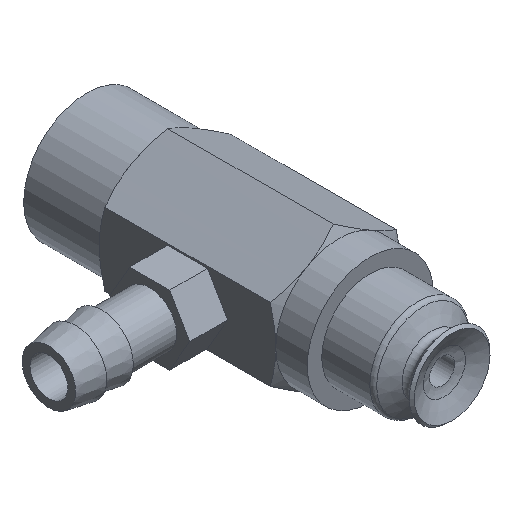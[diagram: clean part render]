
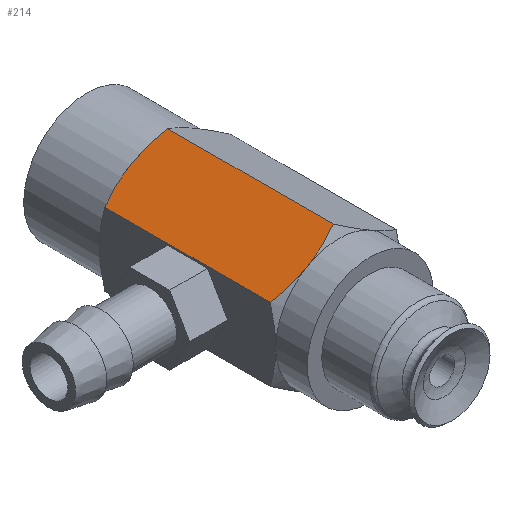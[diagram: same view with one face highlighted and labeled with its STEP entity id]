
A CAD part, isometric view. The second image highlights one B-rep face of the part: STEP entity #214.
In plain terms, the highlighted planar face has unit normal (-0.5, 0, 0.866).
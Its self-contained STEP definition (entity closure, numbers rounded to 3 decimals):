
#214=ADVANCED_FACE('',(#291),#292,.F.);
#291=FACE_OUTER_BOUND('',#479,.T.);
#292=PLANE('',#480);
#479=EDGE_LOOP('',(#720,#721,#722,#723,#724,#725));
#480=AXIS2_PLACEMENT_3D('',#726,#727,#728);
#720=ORIENTED_EDGE('',*,*,#1132,.T.);
#721=ORIENTED_EDGE('',*,*,#1136,.F.);
#722=ORIENTED_EDGE('',*,*,#1138,.F.);
#723=ORIENTED_EDGE('',*,*,#1139,.F.);
#724=ORIENTED_EDGE('',*,*,#1140,.F.);
#725=ORIENTED_EDGE('',*,*,#1124,.F.);
#726=CARTESIAN_POINT('',(-5.0,20.0,2.887));
#727=DIRECTION('',(0.5,0.0,-0.866));
#728=DIRECTION('',(0.0,-1.0,0.0));
#1124=EDGE_CURVE('',#1235,#1232,#1237,.T.);
#1132=EDGE_CURVE('',#1235,#1250,#1253,.T.);
#1136=EDGE_CURVE('',#1259,#1250,#1260,.T.);
#1138=EDGE_CURVE('',#1262,#1259,#1263,.T.);
#1139=EDGE_CURVE('',#1264,#1262,#1265,.T.);
#1140=EDGE_CURVE('',#1232,#1264,#1266,.T.);
#1232=VERTEX_POINT('',#1423);
#1235=VERTEX_POINT('',#1426);
#1237=B_SPLINE_CURVE_WITH_KNOTS('',3,(#1437,#1438,#1439,#1440,#1441,#1442,#1443,#1444,#1445,#1446),.UNSPECIFIED.,.F.,.F.,(4,1,1,1,1,1,1,4),(0.0,0.129,0.255,0.379,0.5,0.669,0.835,1.0),.UNSPECIFIED.);
#1250=VERTEX_POINT('',#1465);
#1253=LINE('',#1477,#1478);
#1259=VERTEX_POINT('',#1503);
#1260=B_SPLINE_CURVE_WITH_KNOTS('',3,(#1504,#1505,#1506,#1507,#1508,#1509,#1510,#1511,#1512,#1513),.UNSPECIFIED.,.F.,.F.,(4,1,1,1,1,1,1,4),(0.0,0.099,0.198,0.297,0.398,0.5,0.745,1.0),.UNSPECIFIED.);
#1262=VERTEX_POINT('',#1515);
#1263=B_SPLINE_CURVE_WITH_KNOTS('',3,(#1516,#1517,#1518,#1519,#1520,#1521,#1522,#1523,#1524,#1525),.UNSPECIFIED.,.F.,.F.,(4,1,1,1,1,1,1,4),(0.0,0.129,0.255,0.379,0.5,0.669,0.835,1.0),.UNSPECIFIED.);
#1264=VERTEX_POINT('',#1526);
#1265=LINE('',#1527,#1528);
#1266=B_SPLINE_CURVE_WITH_KNOTS('',3,(#1529,#1530,#1531,#1532,#1533,#1534,#1535,#1536,#1537,#1538),.UNSPECIFIED.,.F.,.F.,(4,1,1,1,1,1,1,4),(0.0,0.099,0.198,0.297,0.398,0.5,0.745,1.0),.UNSPECIFIED.);
#1423=CARTESIAN_POINT('',(-2.5,16.5,4.33));
#1426=CARTESIAN_POINT('',(-5.0,16.053,2.887));
#1437=CARTESIAN_POINT('',(-5.,16.053,2.887));
#1438=CARTESIAN_POINT('',(-4.895,16.088,2.947));
#1439=CARTESIAN_POINT('',(-4.687,16.155,3.067));
#1440=CARTESIAN_POINT('',(-4.376,16.243,3.247));
#1441=CARTESIAN_POINT('',(-4.069,16.318,3.425));
#1442=CARTESIAN_POINT('',(-3.724,16.39,3.624));
#1443=CARTESIAN_POINT('',(-3.341,16.45,3.844));
#1444=CARTESIAN_POINT('',(-2.92,16.492,4.088));
#1445=CARTESIAN_POINT('',(-2.64,16.497,4.249));
#1446=CARTESIAN_POINT('',(-2.5,16.5,4.33));
#1465=CARTESIAN_POINT('',(-5.0,2.947,2.887));
#1477=CARTESIAN_POINT('',(-5.0,20.0,2.887));
#1478=VECTOR('',#1920,1.0);
#1503=CARTESIAN_POINT('',(-2.5,2.5,4.33));
#1504=CARTESIAN_POINT('',(-2.5,2.5,4.33));
#1505=CARTESIAN_POINT('',(-2.584,2.501,4.282));
#1506=CARTESIAN_POINT('',(-2.752,2.503,4.185));
#1507=CARTESIAN_POINT('',(-3.003,2.518,4.04));
#1508=CARTESIAN_POINT('',(-3.254,2.542,3.894));
#1509=CARTESIAN_POINT('',(-3.508,2.576,3.749));
#1510=CARTESIAN_POINT('',(-3.883,2.64,3.532));
#1511=CARTESIAN_POINT('',(-4.383,2.752,3.243));
#1512=CARTESIAN_POINT('',(-4.792,2.881,3.007));
#1513=CARTESIAN_POINT('',(-5.,2.947,2.887));
#1515=CARTESIAN_POINT('',(0.0,2.947,5.774));
#1516=CARTESIAN_POINT('',(0.,2.947,5.774));
#1517=CARTESIAN_POINT('',(-0.105,2.912,5.713));
#1518=CARTESIAN_POINT('',(-0.313,2.845,5.593));
#1519=CARTESIAN_POINT('',(-0.624,2.757,5.413));
#1520=CARTESIAN_POINT('',(-0.931,2.682,5.236));
#1521=CARTESIAN_POINT('',(-1.276,2.61,5.037));
#1522=CARTESIAN_POINT('',(-1.659,2.55,4.816));
#1523=CARTESIAN_POINT('',(-2.08,2.508,4.572));
#1524=CARTESIAN_POINT('',(-2.36,2.503,4.411));
#1525=CARTESIAN_POINT('',(-2.5,2.5,4.33));
#1526=CARTESIAN_POINT('',(0.0,16.053,5.774));
#1527=CARTESIAN_POINT('',(0.0,20.0,5.774));
#1528=VECTOR('',#1925,1.0);
#1529=CARTESIAN_POINT('',(-2.5,16.5,4.33));
#1530=CARTESIAN_POINT('',(-2.416,16.499,4.379));
#1531=CARTESIAN_POINT('',(-2.248,16.497,4.475));
#1532=CARTESIAN_POINT('',(-1.997,16.482,4.62));
#1533=CARTESIAN_POINT('',(-1.745,16.458,4.766));
#1534=CARTESIAN_POINT('',(-1.492,16.424,4.912));
#1535=CARTESIAN_POINT('',(-1.118,16.36,5.129));
#1536=CARTESIAN_POINT('',(-0.617,16.248,5.417));
#1537=CARTESIAN_POINT('',(-0.208,16.119,5.653));
#1538=CARTESIAN_POINT('',(0.,16.053,5.774));
#1920=DIRECTION('',(0.0,-1.0,0.0));
#1925=DIRECTION('',(0.0,-1.0,0.0));
